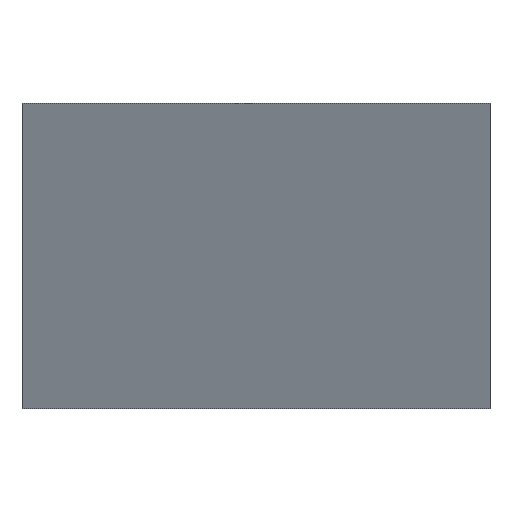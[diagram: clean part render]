
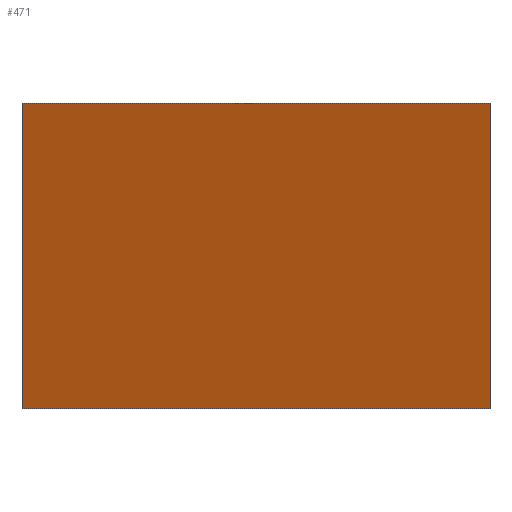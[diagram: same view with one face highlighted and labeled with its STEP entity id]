
A CAD part, front view. The second image highlights one B-rep face of the part: STEP entity #471.
In plain terms, the highlighted planar face has unit normal (0, -0.937, -0.349).
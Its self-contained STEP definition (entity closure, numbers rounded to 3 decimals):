
#21 = EDGE_CURVE('',#22,#24,#26,.T.);
#22 = VERTEX_POINT('',#23);
#23 = CARTESIAN_POINT('',(-29.,-32.82,-88.));
#24 = VERTEX_POINT('',#25);
#25 = CARTESIAN_POINT('',(-29.,-44.,-58.));
#26 = SURFACE_CURVE('',#27,(#31,#43),.PCURVE_S1.);
#27 = LINE('',#28,#29);
#28 = CARTESIAN_POINT('',(-29.,-14.,-138.5));
#29 = VECTOR('',#30,1.);
#30 = DIRECTION('',(0.,-0.349,0.937));
#31 = PCURVE('',#32,#37);
#32 = PLANE('',#33);
#33 = AXIS2_PLACEMENT_3D('',#34,#35,#36);
#34 = CARTESIAN_POINT('',(-29.,-12.557,-99.5));
#35 = DIRECTION('',(1.,0.,0.));
#36 = DIRECTION('',(-0.,0.,1.));
#37 = DEFINITIONAL_REPRESENTATION('',(#38),#42);
#38 = LINE('',#39,#40);
#39 = CARTESIAN_POINT('',(-39.,1.443));
#40 = VECTOR('',#41,1.);
#41 = DIRECTION('',(0.937,0.349));
#42 = ( GEOMETRIC_REPRESENTATION_CONTEXT(2) 
PARAMETRIC_REPRESENTATION_CONTEXT() REPRESENTATION_CONTEXT('2D SPACE',''
  ) );
#43 = PCURVE('',#44,#49);
#44 = PLANE('',#45);
#45 = AXIS2_PLACEMENT_3D('',#46,#47,#48);
#46 = CARTESIAN_POINT('',(-29.,-14.,-138.5));
#47 = DIRECTION('',(0.,-0.937,-0.349));
#48 = DIRECTION('',(0.,-0.349,0.937));
#49 = DEFINITIONAL_REPRESENTATION('',(#50),#54);
#50 = LINE('',#51,#52);
#51 = CARTESIAN_POINT('',(0.,0.));
#52 = VECTOR('',#53,1.);
#53 = DIRECTION('',(1.,0.));
#54 = ( GEOMETRIC_REPRESENTATION_CONTEXT(2) 
PARAMETRIC_REPRESENTATION_CONTEXT() REPRESENTATION_CONTEXT('2D SPACE',''
  ) );
#71 = PLANE('',#72);
#72 = AXIS2_PLACEMENT_3D('',#73,#74,#75);
#73 = CARTESIAN_POINT('',(-400.,-400.,-88.));
#74 = DIRECTION('',(0.,0.,1.));
#75 = DIRECTION('',(1.,0.,0.));
#346 = PLANE('',#347);
#347 = AXIS2_PLACEMENT_3D('',#348,#349,#350);
#348 = CARTESIAN_POINT('',(-29.,-44.,-58.));
#349 = DIRECTION('',(0.,0.,1.));
#350 = DIRECTION('',(0.,1.,0.));
#471 = ADVANCED_FACE('',(#472),#44,.T.);
#472 = FACE_BOUND('',#473,.T.);
#473 = EDGE_LOOP('',(#474,#475,#496,#524));
#474 = ORIENTED_EDGE('',*,*,#21,.F.);
#475 = ORIENTED_EDGE('',*,*,#476,.F.);
#476 = EDGE_CURVE('',#477,#22,#479,.T.);
#477 = VERTEX_POINT('',#478);
#478 = CARTESIAN_POINT('',(17.,-32.82,-88.));
#479 = SURFACE_CURVE('',#480,(#484,#490),.PCURVE_S1.);
#480 = LINE('',#481,#482);
#481 = CARTESIAN_POINT('',(-214.5,-32.82,-88.));
#482 = VECTOR('',#483,1.);
#483 = DIRECTION('',(-1.,-0.,0.));
#484 = PCURVE('',#44,#485);
#485 = DEFINITIONAL_REPRESENTATION('',(#486),#489);
#486 = B_SPLINE_CURVE_WITH_KNOTS('',1,(#487,#488),.UNSPECIFIED.,.F.,.F.,
  (2,2),(-231.5,-185.5),.PIECEWISE_BEZIER_KNOTS.);
#487 = CARTESIAN_POINT('',(53.893,-46.));
#488 = CARTESIAN_POINT('',(53.893,0.));
#489 = ( GEOMETRIC_REPRESENTATION_CONTEXT(2) 
PARAMETRIC_REPRESENTATION_CONTEXT() REPRESENTATION_CONTEXT('2D SPACE',''
  ) );
#490 = PCURVE('',#71,#491);
#491 = DEFINITIONAL_REPRESENTATION('',(#492),#495);
#492 = B_SPLINE_CURVE_WITH_KNOTS('',1,(#493,#494),.UNSPECIFIED.,.F.,.F.,
  (2,2),(-231.5,-185.5),.PIECEWISE_BEZIER_KNOTS.);
#493 = CARTESIAN_POINT('',(417.,367.18));
#494 = CARTESIAN_POINT('',(371.,367.18));
#495 = ( GEOMETRIC_REPRESENTATION_CONTEXT(2) 
PARAMETRIC_REPRESENTATION_CONTEXT() REPRESENTATION_CONTEXT('2D SPACE',''
  ) );
#496 = ORIENTED_EDGE('',*,*,#497,.T.);
#497 = EDGE_CURVE('',#477,#498,#500,.T.);
#498 = VERTEX_POINT('',#499);
#499 = CARTESIAN_POINT('',(17.,-44.,-58.));
#500 = SURFACE_CURVE('',#501,(#505,#512),.PCURVE_S1.);
#501 = LINE('',#502,#503);
#502 = CARTESIAN_POINT('',(17.,-14.,-138.5));
#503 = VECTOR('',#504,1.);
#504 = DIRECTION('',(0.,-0.349,0.937));
#505 = PCURVE('',#44,#506);
#506 = DEFINITIONAL_REPRESENTATION('',(#507),#511);
#507 = LINE('',#508,#509);
#508 = CARTESIAN_POINT('',(0.,-46.));
#509 = VECTOR('',#510,1.);
#510 = DIRECTION('',(1.,0.));
#511 = ( GEOMETRIC_REPRESENTATION_CONTEXT(2) 
PARAMETRIC_REPRESENTATION_CONTEXT() REPRESENTATION_CONTEXT('2D SPACE',''
  ) );
#512 = PCURVE('',#513,#518);
#513 = PLANE('',#514);
#514 = AXIS2_PLACEMENT_3D('',#515,#516,#517);
#515 = CARTESIAN_POINT('',(17.,-12.557,-99.5));
#516 = DIRECTION('',(1.,0.,0.));
#517 = DIRECTION('',(-0.,0.,1.));
#518 = DEFINITIONAL_REPRESENTATION('',(#519),#523);
#519 = LINE('',#520,#521);
#520 = CARTESIAN_POINT('',(-39.,1.443));
#521 = VECTOR('',#522,1.);
#522 = DIRECTION('',(0.937,0.349));
#523 = ( GEOMETRIC_REPRESENTATION_CONTEXT(2) 
PARAMETRIC_REPRESENTATION_CONTEXT() REPRESENTATION_CONTEXT('2D SPACE',''
  ) );
#524 = ORIENTED_EDGE('',*,*,#525,.F.);
#525 = EDGE_CURVE('',#24,#498,#526,.T.);
#526 = SURFACE_CURVE('',#527,(#531,#538),.PCURVE_S1.);
#527 = LINE('',#528,#529);
#528 = CARTESIAN_POINT('',(-29.,-44.,-58.));
#529 = VECTOR('',#530,1.);
#530 = DIRECTION('',(1.,0.,0.));
#531 = PCURVE('',#44,#532);
#532 = DEFINITIONAL_REPRESENTATION('',(#533),#537);
#533 = LINE('',#534,#535);
#534 = CARTESIAN_POINT('',(85.908,0.));
#535 = VECTOR('',#536,1.);
#536 = DIRECTION('',(0.,-1.));
#537 = ( GEOMETRIC_REPRESENTATION_CONTEXT(2) 
PARAMETRIC_REPRESENTATION_CONTEXT() REPRESENTATION_CONTEXT('2D SPACE',''
  ) );
#538 = PCURVE('',#346,#539);
#539 = DEFINITIONAL_REPRESENTATION('',(#540),#544);
#540 = LINE('',#541,#542);
#541 = CARTESIAN_POINT('',(0.,0.));
#542 = VECTOR('',#543,1.);
#543 = DIRECTION('',(0.,-1.));
#544 = ( GEOMETRIC_REPRESENTATION_CONTEXT(2) 
PARAMETRIC_REPRESENTATION_CONTEXT() REPRESENTATION_CONTEXT('2D SPACE',''
  ) );
